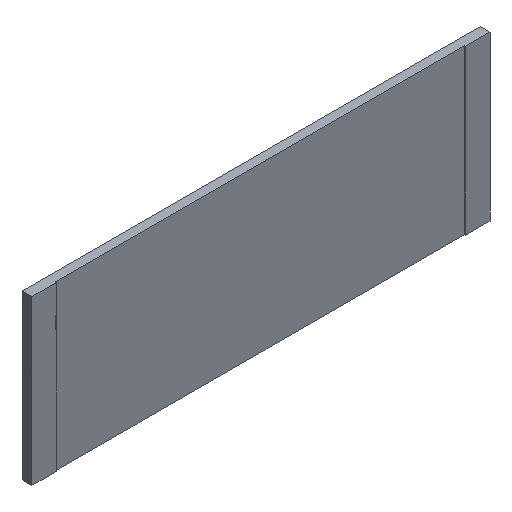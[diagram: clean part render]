
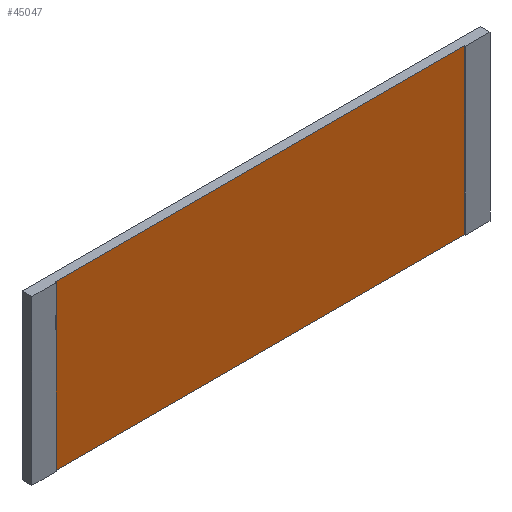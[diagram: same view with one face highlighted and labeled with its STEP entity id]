
A CAD part, isometric view. The second image highlights one B-rep face of the part: STEP entity #45047.
In plain terms, the highlighted planar face has unit normal (0, -1, 0).
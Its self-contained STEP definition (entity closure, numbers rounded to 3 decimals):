
#69 = PLANE('',#70);
#70 = AXIS2_PLACEMENT_3D('',#71,#72,#73);
#71 = CARTESIAN_POINT('',(-28.,12.5,10.));
#72 = DIRECTION('',(0.,0.,1.));
#73 = DIRECTION('',(1.,0.,0.));
#119 = PLANE('',#120);
#120 = AXIS2_PLACEMENT_3D('',#121,#122,#123);
#121 = CARTESIAN_POINT('',(-28.,12.5,-10.));
#122 = DIRECTION('',(0.,0.,1.));
#123 = DIRECTION('',(1.,0.,0.));
#19394 = VERTEX_POINT('',#19395);
#19395 = CARTESIAN_POINT('',(-25.,13.33,-10.));
#19408 = PLANE('',#19409);
#19409 = AXIS2_PLACEMENT_3D('',#19410,#19411,#19412);
#19410 = CARTESIAN_POINT('',(-25.,13.2,-20.));
#19411 = DIRECTION('',(1.,-0.,0.));
#19412 = DIRECTION('',(0.,0.,1.));
#19419 = EDGE_CURVE('',#19394,#19420,#19422,.T.);
#19420 = VERTEX_POINT('',#19421);
#19421 = CARTESIAN_POINT('',(25.,13.33,-10.));
#19422 = SURFACE_CURVE('',#19423,(#19427,#19433),.PCURVE_S1.);
#19423 = LINE('',#19424,#19425);
#19424 = CARTESIAN_POINT('',(-14.,13.33,-10.));
#19425 = VECTOR('',#19426,1.);
#19426 = DIRECTION('',(1.,0.,0.));
#19427 = PCURVE('',#119,#19428);
#19428 = DEFINITIONAL_REPRESENTATION('',(#19429),#19432);
#19429 = B_SPLINE_CURVE_WITH_KNOTS('',1,(#19430,#19431),.UNSPECIFIED.,
  .F.,.F.,(2,2),(-11.,39.),.PIECEWISE_BEZIER_KNOTS.);
#19430 = CARTESIAN_POINT('',(3.,0.83));
#19431 = CARTESIAN_POINT('',(53.,0.83));
#19432 = ( GEOMETRIC_REPRESENTATION_CONTEXT(2) 
PARAMETRIC_REPRESENTATION_CONTEXT() REPRESENTATION_CONTEXT('2D SPACE',''
  ) );
#19433 = PCURVE('',#19434,#19439);
#19434 = PLANE('',#19435);
#19435 = AXIS2_PLACEMENT_3D('',#19436,#19437,#19438);
#19436 = CARTESIAN_POINT('',(0.,13.33,0.));
#19437 = DIRECTION('',(0.,1.,0.));
#19438 = DIRECTION('',(1.,0.,0.));
#19439 = DEFINITIONAL_REPRESENTATION('',(#19440),#19443);
#19440 = B_SPLINE_CURVE_WITH_KNOTS('',1,(#19441,#19442),.UNSPECIFIED.,
  .F.,.F.,(2,2),(-11.,39.),.PIECEWISE_BEZIER_KNOTS.);
#19441 = CARTESIAN_POINT('',(-25.,10.));
#19442 = CARTESIAN_POINT('',(25.,10.));
#19443 = ( GEOMETRIC_REPRESENTATION_CONTEXT(2) 
PARAMETRIC_REPRESENTATION_CONTEXT() REPRESENTATION_CONTEXT('2D SPACE',''
  ) );
#19460 = PLANE('',#19461);
#19461 = AXIS2_PLACEMENT_3D('',#19462,#19463,#19464);
#19462 = CARTESIAN_POINT('',(25.,13.2,-20.));
#19463 = DIRECTION('',(1.,-0.,0.));
#19464 = DIRECTION('',(0.,0.,1.));
#19592 = VERTEX_POINT('',#19593);
#19593 = CARTESIAN_POINT('',(-25.,13.33,10.));
#19612 = EDGE_CURVE('',#19592,#19613,#19615,.T.);
#19613 = VERTEX_POINT('',#19614);
#19614 = CARTESIAN_POINT('',(25.,13.33,10.));
#19615 = SURFACE_CURVE('',#19616,(#19620,#19626),.PCURVE_S1.);
#19616 = LINE('',#19617,#19618);
#19617 = CARTESIAN_POINT('',(-14.,13.33,10.));
#19618 = VECTOR('',#19619,1.);
#19619 = DIRECTION('',(1.,0.,0.));
#19620 = PCURVE('',#69,#19621);
#19621 = DEFINITIONAL_REPRESENTATION('',(#19622),#19625);
#19622 = B_SPLINE_CURVE_WITH_KNOTS('',1,(#19623,#19624),.UNSPECIFIED.,
  .F.,.F.,(2,2),(-11.,39.),.PIECEWISE_BEZIER_KNOTS.);
#19623 = CARTESIAN_POINT('',(3.,0.83));
#19624 = CARTESIAN_POINT('',(53.,0.83));
#19625 = ( GEOMETRIC_REPRESENTATION_CONTEXT(2) 
PARAMETRIC_REPRESENTATION_CONTEXT() REPRESENTATION_CONTEXT('2D SPACE',''
  ) );
#19626 = PCURVE('',#19434,#19627);
#19627 = DEFINITIONAL_REPRESENTATION('',(#19628),#19631);
#19628 = B_SPLINE_CURVE_WITH_KNOTS('',1,(#19629,#19630),.UNSPECIFIED.,
  .F.,.F.,(2,2),(-11.,39.),.PIECEWISE_BEZIER_KNOTS.);
#19629 = CARTESIAN_POINT('',(-25.,-10.));
#19630 = CARTESIAN_POINT('',(25.,-10.));
#19631 = ( GEOMETRIC_REPRESENTATION_CONTEXT(2) 
PARAMETRIC_REPRESENTATION_CONTEXT() REPRESENTATION_CONTEXT('2D SPACE',''
  ) );
#45026 = EDGE_CURVE('',#19613,#19420,#45027,.T.);
#45027 = SURFACE_CURVE('',#45028,(#45032,#45039),.PCURVE_S1.);
#45028 = LINE('',#45029,#45030);
#45029 = CARTESIAN_POINT('',(25.,13.33,0.));
#45030 = VECTOR('',#45031,1.);
#45031 = DIRECTION('',(0.,0.,-1.));
#45032 = PCURVE('',#19460,#45033);
#45033 = DEFINITIONAL_REPRESENTATION('',(#45034),#45038);
#45034 = LINE('',#45035,#45036);
#45035 = CARTESIAN_POINT('',(20.,-0.13));
#45036 = VECTOR('',#45037,1.);
#45037 = DIRECTION('',(-1.,-0.));
#45038 = ( GEOMETRIC_REPRESENTATION_CONTEXT(2) 
PARAMETRIC_REPRESENTATION_CONTEXT() REPRESENTATION_CONTEXT('2D SPACE',''
  ) );
#45039 = PCURVE('',#19434,#45040);
#45040 = DEFINITIONAL_REPRESENTATION('',(#45041),#45045);
#45041 = LINE('',#45042,#45043);
#45042 = CARTESIAN_POINT('',(25.,0.));
#45043 = VECTOR('',#45044,1.);
#45044 = DIRECTION('',(0.,1.));
#45045 = ( GEOMETRIC_REPRESENTATION_CONTEXT(2) 
PARAMETRIC_REPRESENTATION_CONTEXT() REPRESENTATION_CONTEXT('2D SPACE',''
  ) );
#45047 = ADVANCED_FACE('',(#45048),#19434,.F.);
#45048 = FACE_BOUND('',#45049,.F.);
#45049 = EDGE_LOOP('',(#45050,#45071,#45072,#45073));
#45050 = ORIENTED_EDGE('',*,*,#45051,.F.);
#45051 = EDGE_CURVE('',#19592,#19394,#45052,.T.);
#45052 = SURFACE_CURVE('',#45053,(#45057,#45064),.PCURVE_S1.);
#45053 = LINE('',#45054,#45055);
#45054 = CARTESIAN_POINT('',(-25.,13.33,0.));
#45055 = VECTOR('',#45056,1.);
#45056 = DIRECTION('',(0.,0.,-1.));
#45057 = PCURVE('',#19434,#45058);
#45058 = DEFINITIONAL_REPRESENTATION('',(#45059),#45063);
#45059 = LINE('',#45060,#45061);
#45060 = CARTESIAN_POINT('',(-25.,0.));
#45061 = VECTOR('',#45062,1.);
#45062 = DIRECTION('',(0.,1.));
#45063 = ( GEOMETRIC_REPRESENTATION_CONTEXT(2) 
PARAMETRIC_REPRESENTATION_CONTEXT() REPRESENTATION_CONTEXT('2D SPACE',''
  ) );
#45064 = PCURVE('',#19408,#45065);
#45065 = DEFINITIONAL_REPRESENTATION('',(#45066),#45070);
#45066 = LINE('',#45067,#45068);
#45067 = CARTESIAN_POINT('',(20.,-0.13));
#45068 = VECTOR('',#45069,1.);
#45069 = DIRECTION('',(-1.,-0.));
#45070 = ( GEOMETRIC_REPRESENTATION_CONTEXT(2) 
PARAMETRIC_REPRESENTATION_CONTEXT() REPRESENTATION_CONTEXT('2D SPACE',''
  ) );
#45071 = ORIENTED_EDGE('',*,*,#19612,.T.);
#45072 = ORIENTED_EDGE('',*,*,#45026,.T.);
#45073 = ORIENTED_EDGE('',*,*,#19419,.F.);
